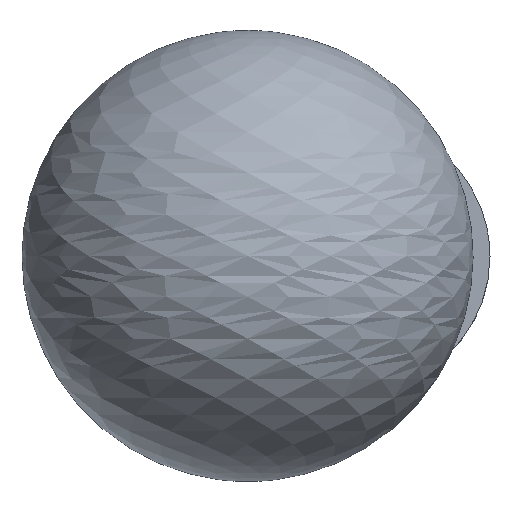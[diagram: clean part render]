
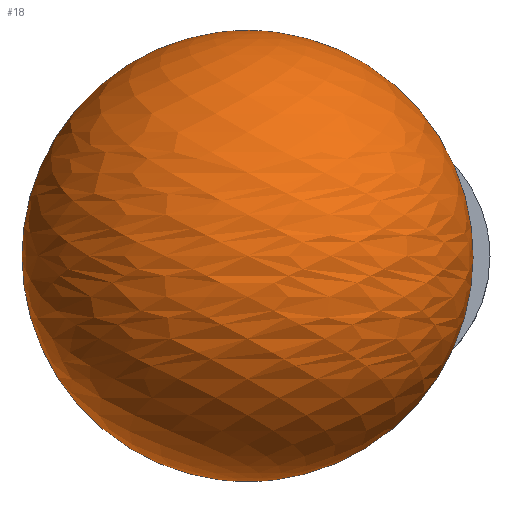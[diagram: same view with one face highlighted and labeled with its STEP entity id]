
A CAD part, top view. The second image highlights one B-rep face of the part: STEP entity #18.
In plain terms, the highlighted free-form (B-spline) face has degree [2, 2] with [5, 5] control points.
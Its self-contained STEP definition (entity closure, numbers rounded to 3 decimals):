
#18=ADVANCED_FACE('',(#24),#74,.T.);
#24=FACE_OUTER_BOUND('',#30,.T.);
#30=EDGE_LOOP('',(#36,#37));
#36=ORIENTED_EDGE('',*,*,#53,.T.);
#37=ORIENTED_EDGE('',*,*,#52,.F.);
#52=EDGE_CURVE('',#68,#69,#60,.T.);
#53=EDGE_CURVE('',#68,#69,#61,.T.);
#60=(
BOUNDED_CURVE()
B_SPLINE_CURVE(2,(#228,#229,#230,#231,#232),.UNSPECIFIED.,.F.,.F.)
B_SPLINE_CURVE_WITH_KNOTS((3,2,3),(-157.08,0.,157.08),
 .UNSPECIFIED.)
CURVE()
GEOMETRIC_REPRESENTATION_ITEM()
RATIONAL_B_SPLINE_CURVE((1.,0.707,1.,0.707,1.))
REPRESENTATION_ITEM('')
);
#61=(
BOUNDED_CURVE()
B_SPLINE_CURVE(2,(#233,#234,#235,#236,#237),.UNSPECIFIED.,.F.,.F.)
B_SPLINE_CURVE_WITH_KNOTS((3,2,3),(-157.08,0.,157.08),
 .UNSPECIFIED.)
CURVE()
GEOMETRIC_REPRESENTATION_ITEM()
RATIONAL_B_SPLINE_CURVE((1.,0.707,1.,0.707,1.))
REPRESENTATION_ITEM('')
);
#68=VERTEX_POINT('',#226);
#69=VERTEX_POINT('',#227);
#74=(
BOUNDED_SURFACE()
B_SPLINE_SURFACE(2,2,((#176,#177,#178,#179,#180),(#181,#182,#183,#184,#185),
(#186,#187,#188,#189,#190),(#191,#192,#193,#194,#195),(#196,#197,#198,#199,
#200)),.UNSPECIFIED.,.F.,.F.,.F.)
B_SPLINE_SURFACE_WITH_KNOTS((3,2,3),(3,2,3),(0.,157.08,314.159),
(-157.08,0.,157.08),.UNSPECIFIED.)
GEOMETRIC_REPRESENTATION_ITEM()
RATIONAL_B_SPLINE_SURFACE(((1.,0.707,1.,0.707,1.),
(0.707,0.5,0.707,0.5,0.707),(1.,0.707,
1.,0.707,1.),(0.707,0.5,0.707,0.5,0.707),
(1.,0.707,1.,0.707,1.)))
REPRESENTATION_ITEM('')
SURFACE()
);
#176=CARTESIAN_POINT('',(-47.5,100.,200.));
#177=CARTESIAN_POINT('',(52.5,100.,200.));
#178=CARTESIAN_POINT('',(52.5,0.,200.));
#179=CARTESIAN_POINT('',(52.5,-100.,200.));
#180=CARTESIAN_POINT('',(-47.5,-100.,200.));
#181=CARTESIAN_POINT('',(-47.5,100.,200.));
#182=CARTESIAN_POINT('',(52.5,100.,300.));
#183=CARTESIAN_POINT('',(52.5,0.,300.));
#184=CARTESIAN_POINT('',(52.5,-100.,300.));
#185=CARTESIAN_POINT('',(-47.5,-100.,200.));
#186=CARTESIAN_POINT('',(-47.5,100.,200.));
#187=CARTESIAN_POINT('',(-47.5,100.,300.));
#188=CARTESIAN_POINT('',(-47.5,0.,300.));
#189=CARTESIAN_POINT('',(-47.5,-100.,300.));
#190=CARTESIAN_POINT('',(-47.5,-100.,200.));
#191=CARTESIAN_POINT('',(-47.5,100.,200.));
#192=CARTESIAN_POINT('',(-147.5,100.,300.));
#193=CARTESIAN_POINT('',(-147.5,0.,300.));
#194=CARTESIAN_POINT('',(-147.5,-100.,300.));
#195=CARTESIAN_POINT('',(-47.5,-100.,200.));
#196=CARTESIAN_POINT('',(-47.5,100.,200.));
#197=CARTESIAN_POINT('',(-147.5,100.,200.));
#198=CARTESIAN_POINT('',(-147.5,0.,200.));
#199=CARTESIAN_POINT('',(-147.5,-100.,200.));
#200=CARTESIAN_POINT('',(-47.5,-100.,200.));
#226=CARTESIAN_POINT('',(-47.5,100.,200.));
#227=CARTESIAN_POINT('',(-47.5,-100.,200.));
#228=CARTESIAN_POINT('',(-47.5,100.,200.));
#229=CARTESIAN_POINT('',(52.5,100.,200.));
#230=CARTESIAN_POINT('',(52.5,0.,200.));
#231=CARTESIAN_POINT('',(52.5,-100.,200.));
#232=CARTESIAN_POINT('',(-47.5,-100.,200.));
#233=CARTESIAN_POINT('',(-47.5,100.,200.));
#234=CARTESIAN_POINT('',(-147.5,100.,200.));
#235=CARTESIAN_POINT('',(-147.5,0.,200.));
#236=CARTESIAN_POINT('',(-147.5,-100.,200.));
#237=CARTESIAN_POINT('',(-47.5,-100.,200.));
